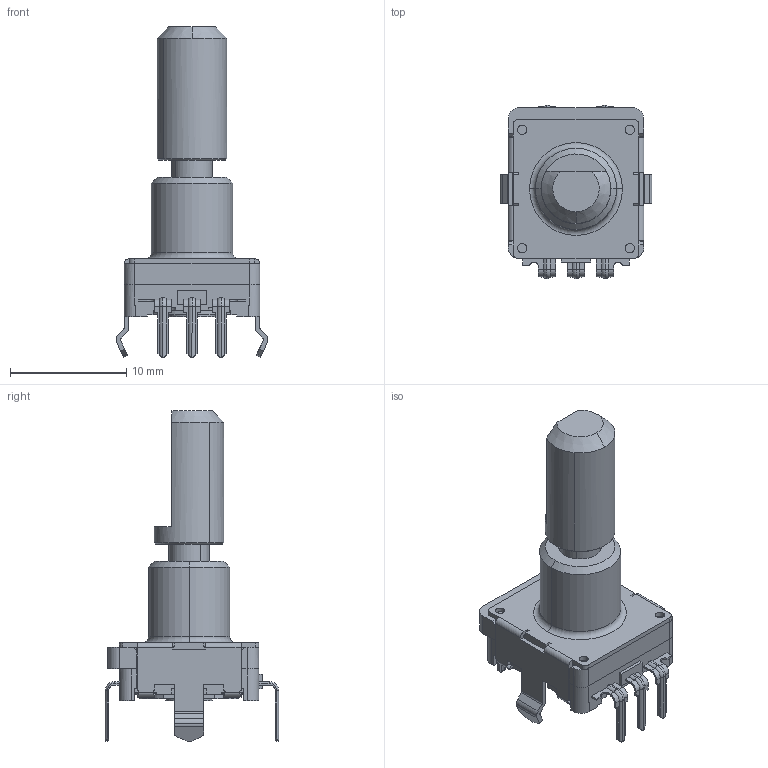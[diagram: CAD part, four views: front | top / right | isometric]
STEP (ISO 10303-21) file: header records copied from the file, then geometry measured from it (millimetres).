
FILE_DESCRIPTION(('STEP AP214'),'1');
FILE_NAME('EC1110120201.step', '2011-03-09T04:31:41', ( '' ), ( '' ), 'SwSTEP 2.0', 'SolidWorks 2007', '' );
FILE_SCHEMA(('automotive_design'));
Length unit declared in the file: inch
Products named in the file (1): EC1110120201
Bounding box: 13.1 x 14.95 x 28.5 mm (x, y, z)
Volume: 1212.4 mm3; surface area: 1267.8 mm2
Topology: 1 solids, 2 shells, 617 faces, 1629 edges, 1019 vertices
Faces by surface type: plane 385, cylinder 182, torus 32, cone 10, bspline 8
Entity records: 24105 total; most frequent: CARTESIAN_POINT 3736, ORIENTED_EDGE 3258, DIRECTION 3183, EDGE_CURVE 1629, LINE 1183, VECTOR 1183, VERTEX_POINT 1019, AXIS2_PLACEMENT_3D 1000
